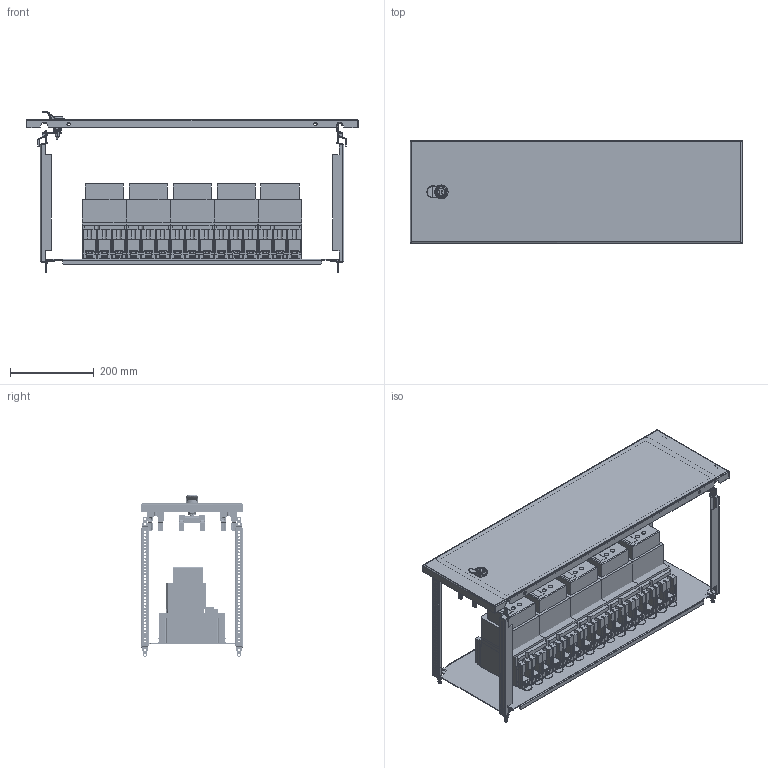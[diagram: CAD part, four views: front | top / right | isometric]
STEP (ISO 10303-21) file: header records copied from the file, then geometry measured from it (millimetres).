
FILE_DESCRIPTION(('CAx-IF Rec.Pracs.---Model Styling and Organization---1.2---2011-12-15','CAx-IF Rec.Pracs.---Geometric and Assembly Validation Properties---4.1---2014-06-16','CAx-IF Rec.Pracs.---PMI Polyline Presentation---2.0---2013-05-24'),'2;1');
FILE_NAME('R5PKEB7V82213 (F-MO).stp','2021-07-29T02:56:56+03:00',(''),(''),'STEP Interface 4.4 by CT CoreTechnologie','3D_Evolution4.4 by CT CoreTechnologie','');
FILE_SCHEMA(('AUTOMOTIVE_DESIGN { 1 0 10303 214 1 1 1 1 }'));
Length unit declared in the file: millimetre
Products named in the file (1): R5PKEB7V82213 (F-MO)
Bounding box: 794 x 245 x 386.89 mm (x, y, z)
Surface area: 2112963.9 mm2 (no closed solid volume)
Topology: 0 solids, 97 shells, 5671 faces, 16132 edges, 10673 vertices
Faces by surface type: plane 3995, cylinder 1231, bspline 445
Entity records: 193354 total; most frequent: CARTESIAN_POINT 44545, ORIENTED_EDGE 32132, DIRECTION 29082, EDGE_CURVE 16071, VECTOR 12848, LINE 12848, VERTEX_POINT 10758, AXIS2_PLACEMENT_3D 8117
